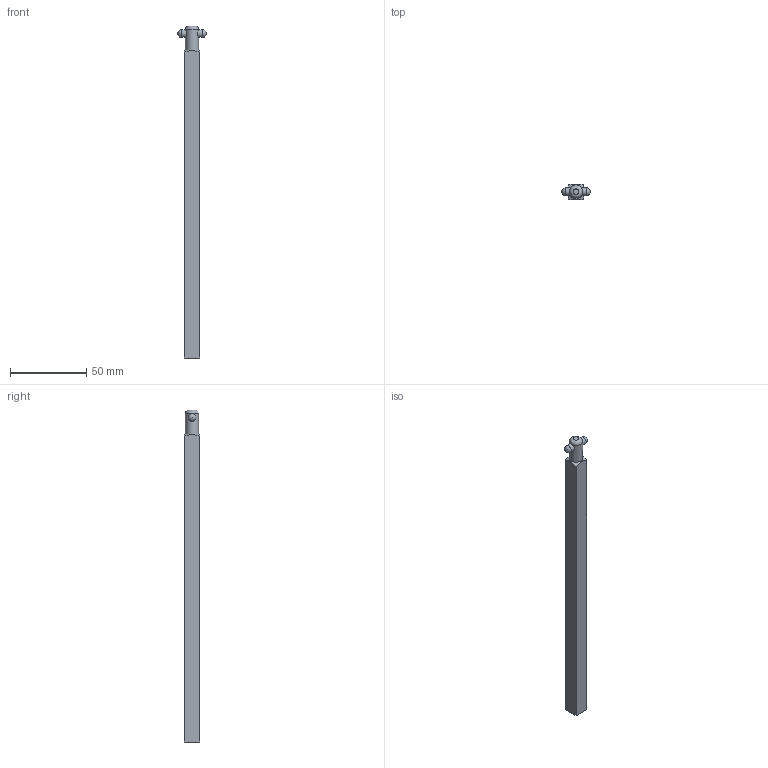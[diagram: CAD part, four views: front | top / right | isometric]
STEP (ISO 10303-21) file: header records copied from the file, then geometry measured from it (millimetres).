
FILE_DESCRIPTION(('STEP AP242'), '1');
FILE_NAME('Âàë âûíîñíîé ðóêîÿòêè', '', ('UNSPECIFIED'), ('UNSPECIFIED'), 'C3D Converter', 'C3D Toolkit', '');
FILE_SCHEMA(('AP242_MANAGED_MODEL_BASED_3D_ENGINEERING_MIM_LF { 1 0 10303 442 1 1 4 }'));
Length unit declared in the file: millimetre
Bounding box: 18.8 x 10 x 218 mm (x, y, z)
Volume: 12099.2 mm3; surface area: 14030.8 mm2
Topology: 1 solids, 1 shells, 19 faces, 46 edges, 29 vertices
Faces by surface type: plane 12, sphere 3, cylinder 3, torus 1
Full cylindrical faces by diameter (mm): 5 x2, 8.6 x1
Entity records: 1202 total; most frequent: CARTESIAN_POINT 610, DIRECTION 84, ORIENTED_EDGE 74, EDGE_CURVE 37, AXIS2_PLACEMENT_3D 32, VERTEX_POINT 27, EDGE_LOOP 26, COLOUR_RGB 20
